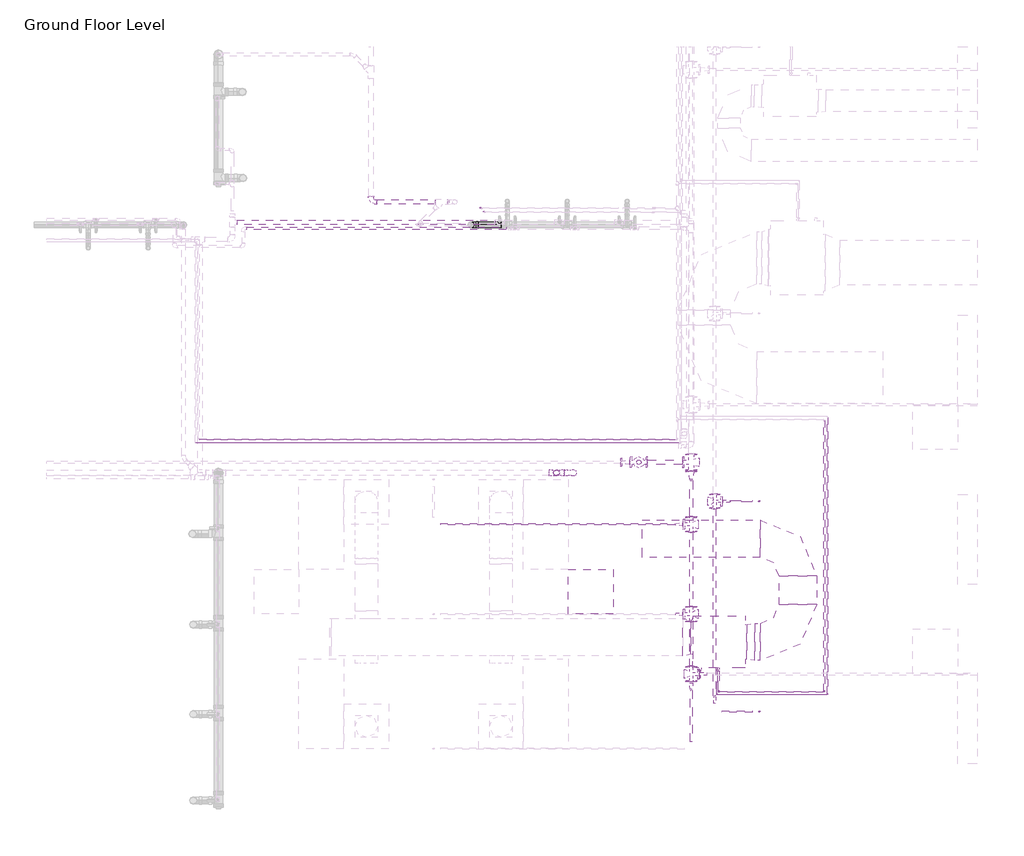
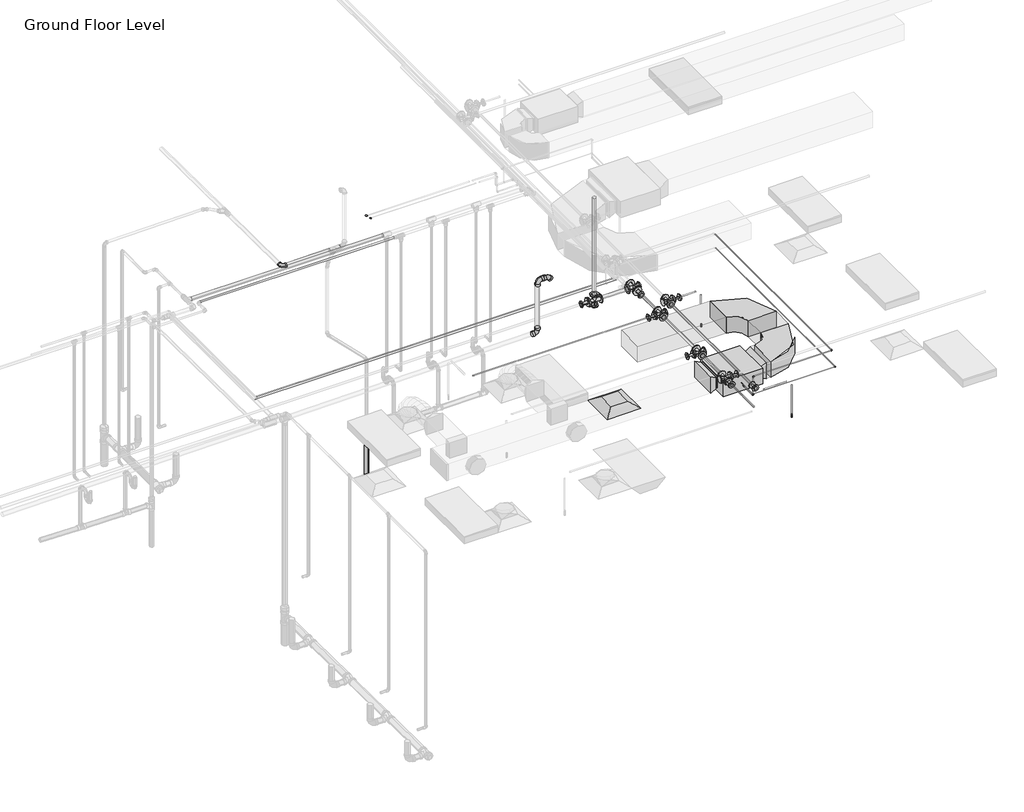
# One storey, part 15 of 74: 28 pipe segments, 26 pipe fittings, 4 duct fittings, 3 duct segments, 2 fire suppression terminals, 1 air terminal, 1 proxy.
"""IFC4 building model written with IfcOpenShell, lengths in millimetres."""

from ifc_helpers import new_model, si_unit, point, frame, frame_2d, origin, place, context, project, spatial, polyline, circle_curve, trimmed, segment, composite_curve, outline, extrude, transform, mapped, element, save
from components import m_return_diffuser_600_x_600_face_300_x_300_connection_ff221211, fcu_daikin_iu_bad131e0, m_rectangular_elbow_radius_1_w_abe20169, m_rectangular_transition_angle_45_degree_2b595dfe, m_rectangular_transition_angle_45_degree_f7c2916c, m_sprinkler_pendent_15_mm_pendent_06fcbd8e, m_bend_pvc_sch_40_dwv_standard_0eeb11e1, m_bend_pvc_sch_40_dwv_standard_ec028db0, m_bend_pvc_sch_40_dwv_standard_cec44c9e, m_bend_pvc_sch_40_dwv_standard_14735a05, m_elbow_generic_standard_a088f956, m_elbow_generic_standard_2a704253, m_elbow_generic_standard_bb5ffebe, m_elbow_generic_standard_f0c60a04, m_reducer_flanged_cs_class_150_standard_b6b67c23, m_reducer_flanged_cs_class_150_standard_ccf252ad, m_reducer_flanged_cs_class_150_standard_d42b2106, m_reducer_flanged_cs_class_150_standard_cc2a7c1d, m_reducer_flanged_cs_class_150_standard_a7631c35, m_reducer_flanged_cs_class_150_standard_678fb8eb, m_reducer_flanged_cs_class_150_standard_13db1923, m_tee_reducing_sanitary_pvc_sch_40_dwv_standard_b574f8c1, m_tee_round_base_flanged_cs_class_150_standard_dd767e04, m_tee_round_base_flanged_cs_class_150_standard_7e5987a1, m_tee_round_base_flanged_cs_class_150_standard_9c9133d0

model = new_model("IFC4")

# Units and contexts
model_context = context("Model", 3, world=origin())
ifc_project = project(units=[si_unit("LENGTHUNIT", "METRE", prefix="MILLI")], contexts=[model_context])

# Site, building, storey
site = spatial("IfcSite", under=ifc_project)
building = spatial("IfcBuilding", under=site)
storey = spatial("IfcBuildingStorey", under=building, Name="Ground Floor Level", Elevation=900.0)

# Air terminal
placement = place(None, origin())
m_return_diffuser_600_x_600_face_300_x_300_connection_shape = m_return_diffuser_600_x_600_face_300_x_300_connection_ff221211(model_context)
element("IfcAirTerminal", 1, ObjectType="M_Return Diffuser : 600 x 600 Face 300 x 300 Connection", at=placement, inside=storey, context=model_context, shape_type="MappedRepresentation", body=[
    mapped(m_return_diffuser_600_x_600_face_300_x_300_connection_shape, transform((4342.7672394, -37764.7846466, 3650.0), x_axis=(1.0, 0.0, 0.0), y_axis=(0.0, 1.0, 0.0), z_axis=(0.0, 0.0, 1.0))),
])

# Proxy
fcu_daikin_iu_shape = fcu_daikin_iu_bad131e0(model_context)
element("IfcBuildingElementProxy", 2, Name="FCU-DAIKIN IU : 4.5kW, 230V/50Hz/1Ph", ObjectType="FCU-DAIKIN IU : 4.5kW, 230V/50Hz/1Ph", at=placement, inside=storey, context=model_context, shape_type="MappedRepresentation", body=[
    mapped(fcu_daikin_iu_shape, transform((6052.7672394, -38436.1128682, 3934.0875), x_axis=(0.0, -1.0, 0.0), y_axis=(1.0, 0.0, 0.0), z_axis=(0.0, 0.0, 1.0))),
])

# Duct fittings
m_rectangular_elbow_radius_1_w_shape = m_rectangular_elbow_radius_1_w_abe20169(model_context)
element("IfcDuctFitting", 3, ObjectType="M_Rectangular Elbow - Radius : 1 W", at=placement, inside=storey, context=model_context, shape_type="MappedRepresentation", body=[
    mapped(m_rectangular_elbow_radius_1_w_shape, transform((7108.1672394, -38436.1128682, 4075.2875), x_axis=(1.0, 0.0, 0.0), y_axis=(0.0, 1.0, 0.0), z_axis=(0.0, 0.0, 1.0))),
])
element("IfcDuctFitting", 4, ObjectType="M_Rectangular Elbow - Radius : 1 W", at=placement, inside=storey, context=model_context, shape_type="MappedRepresentation", body=[
    mapped(m_rectangular_elbow_radius_1_w_shape, transform((7108.1672394, -37056.1128682, 4075.2875), x_axis=(0.0, 1.0, 0.0), y_axis=(-1.0, 0.0, 0.0), z_axis=(0.0, 0.0, 1.0))),
])
m_rectangular_transition_angle_45_degree_shape = m_rectangular_transition_angle_45_degree_2b595dfe(model_context)
element("IfcDuctFitting", 5, ObjectType="M_Rectangular Transition - Angle : 45 Degree", at=placement, inside=storey, context=model_context, shape_type="MappedRepresentation", body=[
    mapped(m_rectangular_transition_angle_45_degree_shape, transform((5677.3672394, -38372.6128682, 4100.0), x_axis=(-1.0, 0.0, 0.0), y_axis=(0.0, -1.0, 0.0), z_axis=(0.0, 0.0, 1.0))),
])
m_rectangular_transition_angle_45_degree_2_shape = m_rectangular_transition_angle_45_degree_f7c2916c(model_context)
element("IfcDuctFitting", 6, ObjectType="M_Rectangular Transition - Angle : 45 Degree", at=placement, inside=storey, context=model_context, shape_type="MappedRepresentation", body=[
    mapped(m_rectangular_transition_angle_45_degree_2_shape, transform((6428.1672394, -38436.1128682, 4075.2875), x_axis=(1.0, 0.0, 0.0), y_axis=(0.0, 1.0, 0.0), z_axis=(0.0, 0.0, 1.0))),
])

# Duct segments
element("IfcDuctSegment", 7, ObjectType="Radius Elbows / Taps", at=placement, inside=storey, context=model_context, shape_type="SweptSolid", body=[
    extrude(outline(polyline([(6531.6162906, -38686.1128682), (6531.6162906, -38186.1128682), (6608.1672394, -38186.1128682), (6608.1672394, -38686.1128682), (6531.6162906, -38686.1128682)])), frame((0.0, 0.0, 3925.2875), z_axis=(0.0, 0.0, 1.0), x_axis=(1.0, 0.0, 0.0)), (0.0, 0.0, 1.0), 300.0),
])
element("IfcDuctSegment", 8, ObjectType="Radius Elbows / Taps", at=placement, inside=storey, context=model_context, shape_type="SweptSolid", body=[
    extrude(outline(polyline([(7358.1672394, -37936.1128682), (6858.1672394, -37936.1128682), (6858.1672394, -37556.1128682), (7358.1672394, -37556.1128682), (7358.1672394, -37936.1128682)])), frame((0.0, 0.0, 3925.2875), z_axis=(0.0, 0.0, 1.0), x_axis=(1.0, 0.0, 0.0)), (0.0, 0.0, 1.0), 300.0),
])
element("IfcDuctSegment", 9, ObjectType="Radius Elbows / Taps", at=placement, inside=storey, context=model_context, shape_type="SweptSolid", body=[
    extrude(outline(polyline([(6608.1672394, -36806.1128682), (6608.1672394, -37306.1128682), (5028.1672394, -37306.1128682), (5028.1672394, -36806.1128682), (6608.1672394, -36806.1128682)])), frame((0.0, 0.0, 3925.2875), z_axis=(0.0, 0.0, 1.0), x_axis=(1.0, 0.0, 0.0)), (0.0, 0.0, 1.0), 300.0),
])

# Fire suppression terminals
m_sprinkler_pendent_15_mm_pendent_shape = m_sprinkler_pendent_15_mm_pendent_06fcbd8e(model_context)
element("IfcFireSuppressionTerminal", 10, ObjectType="M_Sprinkler - Pendent : 15 mm Pendent", at=placement, inside=storey, context=model_context, shape_type="MappedRepresentation", body=[
    mapped(m_sprinkler_pendent_15_mm_pendent_shape, transform((6592.5481019, -36555.4049984, 3650.0), x_axis=(1.0, 0.0, 0.0), y_axis=(0.0, 1.0, 0.0), z_axis=(0.0, 0.0, 1.0))),
])
element("IfcFireSuppressionTerminal", 11, ObjectType="M_Sprinkler - Pendent : 15 mm Pendent", at=placement, inside=storey, context=model_context, shape_type="MappedRepresentation", body=[
    mapped(m_sprinkler_pendent_15_mm_pendent_shape, transform((6592.5481019, -39366.4607861, 3650.0), x_axis=(1.0, 0.0, 0.0), y_axis=(0.0, 1.0, 0.0), z_axis=(0.0, 0.0, 1.0))),
])

# Pipe fittings
m_bend_pvc_sch_40_dwv_standard_shape = m_bend_pvc_sch_40_dwv_standard_0eeb11e1(model_context)
element("IfcPipeFitting", 12, ObjectType="M_Bend - PVC - Sch 40 - DWV : Standard", at=placement, inside=storey, context=model_context, shape_type="MappedRepresentation", body=[
    mapped(m_bend_pvc_sch_40_dwv_standard_shape, transform((3884.407481, -36176.1401483, 4209.2900099), x_axis=(0.9999500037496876, 0.0, 0.009999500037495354), y_axis=(-0.009999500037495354, 0.0, 0.9999500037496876), z_axis=(0.0, -1.0, 0.0))),
])
m_bend_pvc_sch_40_dwv_standard_2_shape = m_bend_pvc_sch_40_dwv_standard_ec028db0(model_context)
element("IfcPipeFitting", 13, ObjectType="M_Bend - PVC - Sch 40 - DWV : Standard", at=placement, inside=storey, context=model_context, shape_type="MappedRepresentation", body=[
    mapped(m_bend_pvc_sch_40_dwv_standard_2_shape, transform((1404.8829692, -32554.2948449, 4125.20016), x_axis=(0.0, -0.9999500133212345, 0.009998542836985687), y_axis=(0.9999500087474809, 9.997543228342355e-05, 0.00999850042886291), z_axis=(-0.009999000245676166, 0.0099980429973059, 0.9999000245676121))),
])
m_bend_pvc_sch_40_dwv_standard_3_shape = m_bend_pvc_sch_40_dwv_standard_cec44c9e(model_context)
element("IfcPipeFitting", 14, ObjectType="M_Bend - PVC - Sch 40 - DWV : Standard", at=placement, inside=storey, context=model_context, shape_type="MappedRepresentation", body=[
    mapped(m_bend_pvc_sch_40_dwv_standard_3_shape, transform((3884.3964821, -36176.1401483, 5200.5901311), x_axis=(0.0, 0.0, 1.0), y_axis=(1.0, 0.0, 0.0), z_axis=(0.0, 1.0, 0.0))),
])
m_bend_pvc_sch_40_dwv_standard_4_shape = m_bend_pvc_sch_40_dwv_standard_14735a05(model_context)
element("IfcPipeFitting", 15, ObjectType="M_Bend - PVC - Sch 40 - DWV : Standard", at=placement, inside=storey, context=model_context, shape_type="MappedRepresentation", body=[
    mapped(m_bend_pvc_sch_40_dwv_standard_4_shape, transform((4066.142039, -36176.1401483, 5198.6726756), x_axis=(0.9999500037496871, 0.0, -0.009999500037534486), y_axis=(-0.009999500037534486, 0.0, -0.9999500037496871), z_axis=(0.0, 1.0, 0.0))),
])
m_elbow_generic_standard_shape = m_elbow_generic_standard_a088f956(model_context)
element("IfcPipeFitting", 16, ObjectType="M_Elbow - Generic : Standard", at=placement, inside=storey, context=model_context, shape_type="MappedRepresentation", body=[
    mapped(m_elbow_generic_standard_shape, transform((6052.7672394, -39103.1206952, 4034.0875), x_axis=(0.0, -1.0, 0.0), y_axis=(0.0, 0.0, 1.0), z_axis=(-1.0, 0.0, 0.0))),
])
element("IfcPipeFitting", 17, ObjectType="M_Elbow - Generic : Standard", at=placement, inside=storey, context=model_context, shape_type="MappedRepresentation", body=[
    mapped(m_elbow_generic_standard_shape, transform((6052.7672394, -39103.1206952, 4390.0), x_axis=(0.0, 0.0, 1.0), y_axis=(1.0, 0.0, 0.0), z_axis=(0.0, 1.0, 0.0))),
])
element("IfcPipeFitting", 18, ObjectType="M_Elbow - Generic : Standard", at=placement, inside=storey, context=model_context, shape_type="MappedRepresentation", body=[
    mapped(m_elbow_generic_standard_shape, transform((7462.8951827, -39103.1206952, 4390.0), x_axis=(1.0, 0.0, 0.0), y_axis=(0.0, 1.0, 0.0), z_axis=(0.0, 0.0, 1.0))),
])
m_elbow_generic_standard_2_shape = m_elbow_generic_standard_2a704253(model_context)
element("IfcPipeFitting", 19, ObjectType="M_Elbow - Generic : Standard", at=placement, inside=storey, context=model_context, shape_type="MappedRepresentation", body=[
    mapped(m_elbow_generic_standard_2_shape, transform((7503.9904113, -39140.6009836, 4084.9), x_axis=(1.0, 0.0, 0.0), y_axis=(0.0, 1.0, 0.0), z_axis=(0.0, 0.0, 1.0))),
])
element("IfcPipeFitting", 20, ObjectType="M_Elbow - Generic : Standard", at=placement, inside=storey, context=model_context, shape_type="MappedRepresentation", body=[
    mapped(m_elbow_generic_standard_2_shape, transform((6027.7672393, -39140.6009836, 4084.9), x_axis=(0.0, -0.9999999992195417, 3.9508437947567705e-05), y_axis=(1.0000000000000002, 0.0, 0.0), z_axis=(0.0, 3.9508437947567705e-05, 0.9999999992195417))),
])
m_elbow_generic_standard_3_shape = m_elbow_generic_standard_bb5ffebe(model_context)
element("IfcPipeFitting", 21, ObjectType="M_Elbow - Generic : Standard", at=placement, inside=storey, context=model_context, shape_type="MappedRepresentation", body=[
    mapped(m_elbow_generic_standard_3_shape, transform((2867.2893107, -32638.716218, 4621.4908765), x_axis=(0.0, -1.0, 0.0), y_axis=(1.0, 0.0, 0.0), z_axis=(0.0, 0.0, 1.0))),
])
m_elbow_generic_standard_4_shape = m_elbow_generic_standard_f0c60a04(model_context)
element("IfcPipeFitting", 22, ObjectType="M_Elbow - Generic : Standard", at=placement, inside=storey, context=model_context, shape_type="MappedRepresentation", body=[
    mapped(m_elbow_generic_standard_4_shape, transform((2911.3621079, -32691.5527522, 4591.0863665), x_axis=(0.0, -1.0, 0.0), y_axis=(1.0, 0.0, 0.0), z_axis=(0.0, 0.0, 1.0))),
])
m_reducer_flanged_cs_class_150_standard_shape = m_reducer_flanged_cs_class_150_standard_b6b67c23(model_context)
element("IfcPipeFitting", 23, ObjectType="M_Reducer - Flanged - CS - Class 150 : Standard", at=placement, inside=storey, context=model_context, shape_type="MappedRepresentation", body=[
    mapped(m_reducer_flanged_cs_class_150_standard_shape, transform((5790.7160832, -38864.7846466, 4347.5), x_axis=(1.0, 0.0, 0.0), y_axis=(0.0, 0.0, 1.0), z_axis=(0.0, -1.0, 0.0))),
])
m_reducer_flanged_cs_class_150_standard_2_shape = m_reducer_flanged_cs_class_150_standard_ccf252ad(model_context)
element("IfcPipeFitting", 24, ObjectType="M_Reducer - Flanged - CS - Class 150 : Standard", at=placement, inside=storey, context=model_context, shape_type="MappedRepresentation", body=[
    mapped(m_reducer_flanged_cs_class_150_standard_2_shape, transform((5997.057812, -39159.4521923, 4291.0943441), x_axis=(0.0, -1.0, 0.0), y_axis=(1.0, 0.0, 0.0), z_axis=(0.0, 0.0, 1.0))),
])
m_reducer_flanged_cs_class_150_standard_3_shape = m_reducer_flanged_cs_class_150_standard_d42b2106(model_context)
element("IfcPipeFitting", 25, ObjectType="M_Reducer - Flanged - CS - Class 150 : Standard", at=placement, inside=storey, context=model_context, shape_type="MappedRepresentation", body=[
    mapped(m_reducer_flanged_cs_class_150_standard_3_shape, transform((6097.7664057, -36555.4049984, 4291.2754753), x_axis=(1.0, 0.0, 0.0), y_axis=(0.0, 0.0, -1.0), z_axis=(0.0, 1.0, 0.0))),
])
m_reducer_flanged_cs_class_150_standard_4_shape = m_reducer_flanged_cs_class_150_standard_cc2a7c1d(model_context)
element("IfcPipeFitting", 26, ObjectType="M_Reducer - Flanged - CS - Class 150 : Standard", at=placement, inside=storey, context=model_context, shape_type="MappedRepresentation", body=[
    mapped(m_reducer_flanged_cs_class_150_standard_4_shape, transform((5578.5188957, -38064.7846466, 4347.5), x_axis=(-1.0, 0.0, 0.0), y_axis=(0.0, 0.0, -1.0), z_axis=(0.0, -1.0, 0.0))),
])
m_reducer_flanged_cs_class_150_standard_5_shape = m_reducer_flanged_cs_class_150_standard_a7631c35(model_context)
element("IfcPipeFitting", 27, ObjectType="M_Reducer - Flanged - CS - Class 150 : Standard", at=placement, inside=storey, context=model_context, shape_type="MappedRepresentation", body=[
    mapped(m_reducer_flanged_cs_class_150_standard_5_shape, transform((4870.6174894, -36033.7985971, 4347.5), x_axis=(-1.0, 0.0, 0.0), y_axis=(0.0, -1.0, 0.0), z_axis=(0.0, 0.0, 1.0))),
])
m_reducer_flanged_cs_class_150_standard_6_shape = m_reducer_flanged_cs_class_150_standard_678fb8eb(model_context)
element("IfcPipeFitting", 28, ObjectType="M_Reducer - Flanged - CS - Class 150 : Standard", at=placement, inside=storey, context=model_context, shape_type="MappedRepresentation", body=[
    mapped(m_reducer_flanged_cs_class_150_standard_6_shape, transform((5578.5188957, -36864.7846466, 4347.5), x_axis=(-1.0, 0.0, 0.0), y_axis=(0.0, -1.0, 0.0), z_axis=(0.0, 0.0, 1.0))),
])
element("IfcPipeFitting", 29, ObjectType="M_Reducer - Flanged - CS - Class 150 : Standard", at=placement, inside=storey, context=model_context, shape_type="MappedRepresentation", body=[
    mapped(m_reducer_flanged_cs_class_150_standard_6_shape, transform((5684.6174894, -38970.8832404, 4347.5), x_axis=(0.0, -1.0, 0.0), y_axis=(1.0, 0.0, 0.0), z_axis=(0.0, 0.0, 1.0))),
])
m_reducer_flanged_cs_class_150_standard_7_shape = m_reducer_flanged_cs_class_150_standard_13db1923(model_context)
element("IfcPipeFitting", 30, ObjectType="M_Reducer - Flanged - CS - Class 150 : Standard", at=placement, inside=storey, context=model_context, shape_type="MappedRepresentation", body=[
    mapped(m_reducer_flanged_cs_class_150_standard_7_shape, transform((5684.6174894, -36147.7985971, 4347.5), x_axis=(0.0, -1.0, 0.0), y_axis=(1.0, 0.0, 0.0), z_axis=(0.0, 0.0, 1.0))),
])
m_tee_reducing_sanitary_pvc_sch_40_dwv_standard_shape = m_tee_reducing_sanitary_pvc_sch_40_dwv_standard_b574f8c1(model_context)
element("IfcPipeFitting", 31, ObjectType="M_Tee Reducing Sanitary - PVC - Sch 40 - DWV : Standard", at=placement, inside=storey, context=model_context, shape_type="MappedRepresentation", body=[
    mapped(m_tee_reducing_sanitary_pvc_sch_40_dwv_standard_shape, transform((2740.8154211, -32858.7119065, 701.6), x_axis=(0.0, 0.0, 1.0), y_axis=(-1.0, 0.0, 0.0), z_axis=(0.0, -1.0, 0.0))),
])
m_tee_round_base_flanged_cs_class_150_standard_shape = m_tee_round_base_flanged_cs_class_150_standard_dd767e04(model_context)
element("IfcPipeFitting", 32, ObjectType="M_Tee Round Base - Flanged - CS - Class 150 : Standard", at=placement, inside=storey, context=model_context, shape_type="MappedRepresentation", body=[
    mapped(m_tee_round_base_flanged_cs_class_150_standard_shape, transform((5684.6174894, -36033.7985971, 4347.5), x_axis=(0.0, 1.0, 0.0), y_axis=(1.0, 0.0, 0.0), z_axis=(0.0, 0.0, -1.0))),
])
element("IfcPipeFitting", 33, ObjectType="M_Tee Round Base - Flanged - CS - Class 150 : Standard", at=placement, inside=storey, context=model_context, shape_type="MappedRepresentation", body=[
    mapped(m_tee_round_base_flanged_cs_class_150_standard_shape, transform((4984.6174894, -36033.7985971, 4347.5), x_axis=(-1.0, 0.0, 0.0), y_axis=(0.0, 0.0, -1.0), z_axis=(0.0, -1.0, 0.0))),
])
m_tee_round_base_flanged_cs_class_150_standard_2_shape = m_tee_round_base_flanged_cs_class_150_standard_7e5987a1(model_context)
element("IfcPipeFitting", 34, ObjectType="M_Tee Round Base - Flanged - CS - Class 150 : Standard", at=placement, inside=storey, context=model_context, shape_type="MappedRepresentation", body=[
    mapped(m_tee_round_base_flanged_cs_class_150_standard_2_shape, transform((5997.057812, -36555.4049984, 4291.0943441), x_axis=(0.0, 1.0, 0.0), y_axis=(-1.0, 0.0, 0.0), z_axis=(0.0, 0.0, 1.0))),
])
m_tee_round_base_flanged_cs_class_150_standard_3_shape = m_tee_round_base_flanged_cs_class_150_standard_9c9133d0(model_context)
element("IfcPipeFitting", 35, ObjectType="M_Tee Round Base - Flanged - CS - Class 150 : Standard", at=placement, inside=storey, context=model_context, shape_type="MappedRepresentation", body=[
    mapped(m_tee_round_base_flanged_cs_class_150_standard_3_shape, transform((5684.6174894, -38064.7846466, 4347.5), x_axis=(0.0, 1.0, 0.0), y_axis=(1.0, 0.0, 0.0), z_axis=(0.0, 0.0, -1.0))),
])
element("IfcPipeFitting", 36, ObjectType="M_Tee Round Base - Flanged - CS - Class 150 : Standard", at=placement, inside=storey, context=model_context, shape_type="MappedRepresentation", body=[
    mapped(m_tee_round_base_flanged_cs_class_150_standard_3_shape, transform((5684.6174894, -38864.7846466, 4347.5), x_axis=(0.0, 1.0, 0.0), y_axis=(-1.0, 0.0, 0.0), z_axis=(0.0, 0.0, 1.0))),
])
element("IfcPipeFitting", 37, ObjectType="M_Tee Round Base - Flanged - CS - Class 150 : Standard", at=placement, inside=storey, context=model_context, shape_type="MappedRepresentation", body=[
    mapped(m_tee_round_base_flanged_cs_class_150_standard_3_shape, transform((5684.6174894, -36864.7846466, 4347.5), x_axis=(0.0, 1.0, 0.0), y_axis=(1.0, 0.0, 0.0), z_axis=(0.0, 0.0, -1.0))),
])

# Pipe segments
element("IfcPipeSegment", 38, ObjectType="CPVC", at=placement, inside=storey, context=model_context, shape_type="SweptSolid", body=[
    extrude(outline(composite_curve([segment(trimmed(circle_curve(frame_2d((-32824.9853451, 4300.0)), 30.1625), [point((-32855.1478451, 4300.0))], [point((-32824.9853451, 4330.1625))], False, "CARTESIAN"), True, "CONTINUOUS"), segment(trimmed(circle_curve(frame_2d((-32824.9853451, 4300.0)), 30.1625), [point((-32824.9853451, 4330.1625))], [point((-32794.8228451, 4300.0))], False, "CARTESIAN"), True, "CONTINUOUS"), segment(trimmed(circle_curve(frame_2d((-32824.9853451, 4300.0)), 30.1625), [point((-32794.8228451, 4300.0))], [point((-32824.9853451, 4269.8375))], False, "CARTESIAN"), True, "CONTINUOUS"), segment(trimmed(circle_curve(frame_2d((-32824.9853451, 4300.0)), 30.1625), [point((-32824.9853451, 4269.8375))], [point((-32855.1478451, 4300.0))], False, "CARTESIAN"), True, "CONTINUOUS")], self_intersect=False)), frame((-380.5577605, 0.0, 0.0), z_axis=(1.0, 0.0, 0.0), x_axis=(0.0, 1.0, 0.0)), (0.0, 0.0, 1.0), 3436.3525188),
])
element("IfcPipeSegment", 39, ObjectType="CPVC", at=placement, inside=storey, context=model_context, shape_type="SweptSolid", body=[
    extrude(outline(composite_curve([segment(trimmed(circle_curve(frame_2d((-32905.870708, 4250.0)), 16.7005), [point((-32889.170208, 4250.0))], [point((-32905.870708, 4233.2995))], False, "CARTESIAN"), True, "CONTINUOUS"), segment(trimmed(circle_curve(frame_2d((-32905.870708, 4250.0)), 16.7005), [point((-32905.870708, 4233.2995))], [point((-32922.571208, 4250.0))], False, "CARTESIAN"), True, "CONTINUOUS"), segment(trimmed(circle_curve(frame_2d((-32905.870708, 4250.0)), 16.7005), [point((-32922.571208, 4250.0))], [point((-32905.870708, 4266.7005))], False, "CARTESIAN"), True, "CONTINUOUS"), segment(trimmed(circle_curve(frame_2d((-32905.870708, 4250.0)), 16.7005), [point((-32905.870708, 4266.7005))], [point((-32889.170208, 4250.0))], False, "CARTESIAN"), True, "CONTINUOUS")], self_intersect=False)), frame((-256.1798698, 0.0, 0.0), z_axis=(1.0, 0.0, 0.0), x_axis=(0.0, 1.0, 0.0)), (0.0, 0.0, 1.0), 3467.1855943),
])
element("IfcPipeSegment", 40, ObjectType="Copper", at=placement, inside=storey, context=model_context, shape_type="SweptSolid", body=[
    extrude(outline(composite_curve([segment(trimmed(circle_curve(frame_2d((-35730.466218, 4390.0)), 6.5), [point((-35723.966218, 4390.0))], [point((-35730.466218, 4383.5))], False, "CARTESIAN"), True, "CONTINUOUS"), segment(trimmed(circle_curve(frame_2d((-35730.466218, 4390.0)), 6.5), [point((-35730.466218, 4383.5))], [point((-35736.966218, 4390.0))], False, "CARTESIAN"), True, "CONTINUOUS"), segment(trimmed(circle_curve(frame_2d((-35730.466218, 4390.0)), 6.5), [point((-35736.966218, 4390.0))], [point((-35730.466218, 4396.5))], False, "CARTESIAN"), True, "CONTINUOUS"), segment(trimmed(circle_curve(frame_2d((-35730.466218, 4390.0)), 6.5), [point((-35730.466218, 4396.5))], [point((-35723.966218, 4390.0))], False, "CARTESIAN"), True, "CONTINUOUS")], self_intersect=False)), frame((-882.8173173, 0.0, 0.0), z_axis=(1.0, 0.0, 0.0), x_axis=(0.0, 1.0, 0.0)), (0.0, 0.0, 1.0), 6366.425),
])
element("IfcPipeSegment", 41, ObjectType="Copper", at=placement, inside=storey, context=model_context, shape_type="SweptSolid", body=[
    extrude(outline(composite_curve([segment(trimmed(circle_curve(frame_2d((-35773.5402522, 4377.5)), 3.35), [point((-35770.1902522, 4377.5))], [point((-35773.5402522, 4374.15))], False, "CARTESIAN"), True, "CONTINUOUS"), segment(trimmed(circle_curve(frame_2d((-35773.5402522, 4377.5)), 3.35), [point((-35773.5402522, 4374.15))], [point((-35776.8902522, 4377.5))], False, "CARTESIAN"), True, "CONTINUOUS"), segment(trimmed(circle_curve(frame_2d((-35773.5402522, 4377.5)), 3.35), [point((-35776.8902522, 4377.5))], [point((-35773.5402522, 4380.85))], False, "CARTESIAN"), True, "CONTINUOUS"), segment(trimmed(circle_curve(frame_2d((-35773.5402522, 4377.5)), 3.35), [point((-35773.5402522, 4380.85))], [point((-35770.1902522, 4377.5))], False, "CARTESIAN"), True, "CONTINUOUS")], self_intersect=False)), frame((-929.8720887, 0.0, 0.0), z_axis=(1.0, 0.0, 0.0), x_axis=(0.0, 1.0, 0.0)), (0.0, 0.0, 1.0), 6462.725),
])
element("IfcPipeSegment", 42, ObjectType="Copper", at=placement, inside=storey, context=model_context, shape_type="SweptSolid", body=[
    extrude(outline(composite_curve([segment(trimmed(circle_curve(frame_2d((4390.0, 7462.8951827)), 6.5), [point((4390.0, 7456.3951827))], [point((4383.5, 7462.8951827))], False, "CARTESIAN"), True, "CONTINUOUS"), segment(trimmed(circle_curve(frame_2d((4390.0, 7462.8951827)), 6.5), [point((4383.5, 7462.8951827))], [point((4390.0, 7469.3951827))], False, "CARTESIAN"), True, "CONTINUOUS"), segment(trimmed(circle_curve(frame_2d((4390.0, 7462.8951827)), 6.5), [point((4390.0, 7469.3951827))], [point((4396.5, 7462.8951827))], False, "CARTESIAN"), True, "CONTINUOUS"), segment(trimmed(circle_curve(frame_2d((4390.0, 7462.8951827)), 6.5), [point((4396.5, 7462.8951827))], [point((4390.0, 7456.3951827))], False, "CARTESIAN"), True, "CONTINUOUS")], self_intersect=False)), frame((0.0, -39088.8331952, 0.0), z_axis=(0.0, 1.0, 0.0), x_axis=(0.0, 0.0, 1.0)), (0.0, 0.0, 1.0), 3611.425),
])
element("IfcPipeSegment", 43, ObjectType="Copper", at=placement, inside=storey, context=model_context, shape_type="SweptSolid", body=[
    extrude(outline(composite_curve([segment(trimmed(circle_curve(frame_2d((-39103.1206952, 4390.0)), 6.5), [point((-39109.6206952, 4390.0))], [point((-39103.1206952, 4396.5))], False, "CARTESIAN"), True, "CONTINUOUS"), segment(trimmed(circle_curve(frame_2d((-39103.1206952, 4390.0)), 6.5), [point((-39103.1206952, 4396.5))], [point((-39096.6206952, 4390.0))], False, "CARTESIAN"), True, "CONTINUOUS"), segment(trimmed(circle_curve(frame_2d((-39103.1206952, 4390.0)), 6.5), [point((-39096.6206952, 4390.0))], [point((-39103.1206952, 4383.5))], False, "CARTESIAN"), True, "CONTINUOUS"), segment(trimmed(circle_curve(frame_2d((-39103.1206952, 4390.0)), 6.5), [point((-39103.1206952, 4383.5))], [point((-39109.6206952, 4390.0))], False, "CARTESIAN"), True, "CONTINUOUS")], self_intersect=False)), frame((6067.0547394, 0.0, 0.0), z_axis=(1.0, 0.0, 0.0), x_axis=(0.0, 1.0, 0.0)), (0.0, 0.0, 1.0), 1381.5529433),
])
element("IfcPipeSegment", 44, ObjectType="Copper", at=placement, inside=storey, context=model_context, shape_type="SweptSolid", body=[
    extrude(outline(composite_curve([segment(trimmed(circle_curve(frame_2d((4084.9, 7503.9904113)), 3.35), [point((4084.9, 7500.6404113))], [point((4081.55, 7503.9904113))], False, "CARTESIAN"), True, "CONTINUOUS"), segment(trimmed(circle_curve(frame_2d((4084.9, 7503.9904113)), 3.35), [point((4081.55, 7503.9904113))], [point((4084.9, 7507.3404113))], False, "CARTESIAN"), True, "CONTINUOUS"), segment(trimmed(circle_curve(frame_2d((4084.9, 7503.9904113)), 3.35), [point((4084.9, 7507.3404113))], [point((4088.25, 7503.9904113))], False, "CARTESIAN"), True, "CONTINUOUS"), segment(trimmed(circle_curve(frame_2d((4084.9, 7503.9904113)), 3.35), [point((4088.25, 7503.9904113))], [point((4084.9, 7500.6404113))], False, "CARTESIAN"), True, "CONTINUOUS")], self_intersect=False)), frame((0.0, -39129.4634836, 0.0), z_axis=(0.0, 1.0, 0.0), x_axis=(0.0, 0.0, 1.0)), (0.0, 0.0, 1.0), 3697.725),
])
element("IfcPipeSegment", 45, ObjectType="Copper", at=placement, inside=storey, context=model_context, shape_type="SweptSolid", body=[
    extrude(outline(composite_curve([segment(trimmed(circle_curve(frame_2d((-39140.6009836, 4084.9)), 3.35), [point((-39137.2509836, 4084.9))], [point((-39140.6009836, 4081.55))], False, "CARTESIAN"), True, "CONTINUOUS"), segment(trimmed(circle_curve(frame_2d((-39140.6009836, 4084.9)), 3.35), [point((-39140.6009836, 4081.55))], [point((-39143.9509836, 4084.9))], False, "CARTESIAN"), True, "CONTINUOUS"), segment(trimmed(circle_curve(frame_2d((-39140.6009836, 4084.9)), 3.35), [point((-39143.9509836, 4084.9))], [point((-39140.6009836, 4088.25))], False, "CARTESIAN"), True, "CONTINUOUS"), segment(trimmed(circle_curve(frame_2d((-39140.6009836, 4084.9)), 3.35), [point((-39140.6009836, 4088.25))], [point((-39137.2509836, 4084.9))], False, "CARTESIAN"), True, "CONTINUOUS")], self_intersect=False)), frame((6038.9047393, 0.0, 0.0), z_axis=(1.0, 0.0, 0.0), x_axis=(0.0, 1.0, 0.0)), (0.0, 0.0, 1.0), 1453.948172),
])
element("IfcPipeSegment", 46, ObjectType="Copper", at=placement, inside=storey, context=model_context, shape_type="SweptSolid", body=[
    extrude(outline(composite_curve([segment(trimmed(circle_curve(frame_2d((0.0, -3.35)), 3.35), [point((0.0, -6.7))], [point((-3.35, -3.35))], False, "CARTESIAN"), True, "CONTINUOUS"), segment(trimmed(circle_curve(frame_2d((0.0, -3.35)), 3.35), [point((-3.35, -3.35))], [point((0.0, 0.0))], False, "CARTESIAN"), True, "CONTINUOUS"), segment(trimmed(circle_curve(frame_2d((0.0, -3.35)), 3.35), [point((0.0, 0.0))], [point((3.35, -3.35))], False, "CARTESIAN"), True, "CONTINUOUS"), segment(trimmed(circle_curve(frame_2d((0.0, -3.35)), 3.35), [point((3.35, -3.35))], [point((0.0, -6.7))], False, "CARTESIAN"), True, "CONTINUOUS")], self_intersect=False)), frame((6024.4172393, -38824.2128682, 4084.8875), z_axis=(0.0, -0.9999999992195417, 3.950843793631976e-05), x_axis=(0.0, 3.950843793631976e-05, 0.9999999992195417)), (0.0, 0.0, 1.0), 305.2506156),
])
element("IfcPipeSegment", 47, ObjectType="Copper", at=placement, inside=storey, context=model_context, shape_type="SweptSolid", body=[
    extrude(outline(composite_curve([segment(trimmed(circle_curve(frame_2d((4034.0875, 6052.7672394)), 6.5), [point((4034.0875, 6046.2672394))], [point((4027.5875, 6052.7672394))], False, "CARTESIAN"), True, "CONTINUOUS"), segment(trimmed(circle_curve(frame_2d((4034.0875, 6052.7672394)), 6.5), [point((4027.5875, 6052.7672394))], [point((4034.0875, 6059.2672394))], False, "CARTESIAN"), True, "CONTINUOUS"), segment(trimmed(circle_curve(frame_2d((4034.0875, 6052.7672394)), 6.5), [point((4034.0875, 6059.2672394))], [point((4040.5875, 6052.7672394))], False, "CARTESIAN"), True, "CONTINUOUS"), segment(trimmed(circle_curve(frame_2d((4034.0875, 6052.7672394)), 6.5), [point((4040.5875, 6052.7672394))], [point((4034.0875, 6046.2672394))], False, "CARTESIAN"), True, "CONTINUOUS")], self_intersect=False)), frame((0.0, -39088.8331952, 0.0), z_axis=(0.0, 1.0, 0.0), x_axis=(0.0, 0.0, 1.0)), (0.0, 0.0, 1.0), 264.6203269),
])
element("IfcPipeSegment", 48, ObjectType="Copper", at=placement, inside=storey, context=model_context, shape_type="SweptSolid", body=[
    extrude(outline(composite_curve([segment(trimmed(circle_curve(frame_2d((6052.7672394, -39103.1206952)), 6.5), [point((6046.2672394, -39103.1206952))], [point((6052.7672394, -39096.6206952))], False, "CARTESIAN"), True, "CONTINUOUS"), segment(trimmed(circle_curve(frame_2d((6052.7672394, -39103.1206952)), 6.5), [point((6052.7672394, -39096.6206952))], [point((6059.2672394, -39103.1206952))], False, "CARTESIAN"), True, "CONTINUOUS"), segment(trimmed(circle_curve(frame_2d((6052.7672394, -39103.1206952)), 6.5), [point((6059.2672394, -39103.1206952))], [point((6052.7672394, -39109.6206952))], False, "CARTESIAN"), True, "CONTINUOUS"), segment(trimmed(circle_curve(frame_2d((6052.7672394, -39103.1206952)), 6.5), [point((6052.7672394, -39109.6206952))], [point((6046.2672394, -39103.1206952))], False, "CARTESIAN"), True, "CONTINUOUS")], self_intersect=False)), frame((0.0, 0.0, 4048.375), z_axis=(0.0, 0.0, 1.0), x_axis=(1.0, 0.0, 0.0)), (0.0, 0.0, 1.0), 327.3375),
])
element("IfcPipeSegment", 49, ObjectType="PVC - DWV", at=placement, inside=storey, context=model_context, shape_type="SweptSolid", body=[
    extrude(outline(composite_curve([segment(trimmed(circle_curve(frame_2d((0.0, -36.5125)), 36.5125), [point((0.0, 0.0))], [point((36.5125, -36.5125))], False, "CARTESIAN"), True, "CONTINUOUS"), segment(trimmed(circle_curve(frame_2d((0.0, -36.5125)), 36.5125), [point((36.5125, -36.5125))], [point((0.0, -73.025))], False, "CARTESIAN"), True, "CONTINUOUS"), segment(trimmed(circle_curve(frame_2d((0.0, -36.5125)), 36.5125), [point((0.0, -73.025))], [point((-36.5125, -36.5125))], False, "CARTESIAN"), True, "CONTINUOUS"), segment(trimmed(circle_curve(frame_2d((0.0, -36.5125)), 36.5125), [point((-36.5125, -36.5125))], [point((0.0, 0.0))], False, "CARTESIAN"), True, "CONTINUOUS")], self_intersect=False)), frame((2840.7783918, -32822.1994065, 702.5996297), z_axis=(0.9999500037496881, 0.0, 0.0099995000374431), x_axis=(0.0099995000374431, 0.0, -0.9999500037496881)), (0.0, 0.0, 1.0), 306.9624682),
])
element("IfcPipeSegment", 50, ObjectType="PVC - DWV", at=placement, inside=storey, context=model_context, shape_type="SweptSolid", body=[
    extrude(outline(composite_curve([segment(trimmed(circle_curve(frame_2d((2740.8154211, -32858.7119065)), 36.5125), [point((2777.3279211, -32858.7119065))], [point((2740.8154211, -32895.2244065))], False, "CARTESIAN"), True, "CONTINUOUS"), segment(trimmed(circle_curve(frame_2d((2740.8154211, -32858.7119065)), 36.5125), [point((2740.8154211, -32895.2244065))], [point((2704.3029211, -32858.7119065))], False, "CARTESIAN"), True, "CONTINUOUS"), segment(trimmed(circle_curve(frame_2d((2740.8154211, -32858.7119065)), 36.5125), [point((2704.3029211, -32858.7119065))], [point((2740.8154211, -32822.1994065))], False, "CARTESIAN"), True, "CONTINUOUS"), segment(trimmed(circle_curve(frame_2d((2740.8154211, -32858.7119065)), 36.5125), [point((2740.8154211, -32822.1994065))], [point((2777.3279211, -32858.7119065))], False, "CARTESIAN"), True, "CONTINUOUS")], self_intersect=False)), frame((0.0, 0.0, -100.0), z_axis=(0.0, 0.0, 1.0), x_axis=(1.0, 0.0, 0.0)), (0.0, 0.0, 1.0), 703.7868813),
])
element("IfcPipeSegment", 51, ObjectType="PVC - DWV", at=placement, inside=storey, context=model_context, shape_type="SweptSolid", body=[
    extrude(outline(composite_curve([segment(trimmed(circle_curve(frame_2d((0.0, 30.1625)), 30.1625), [point((0.0, 0.0))], [point((-30.1625, 30.1625))], False, "CARTESIAN"), True, "CONTINUOUS"), segment(trimmed(circle_curve(frame_2d((0.0, 30.1625)), 30.1625), [point((-30.1625, 30.1625))], [point((0.0, 60.325))], False, "CARTESIAN"), True, "CONTINUOUS"), segment(trimmed(circle_curve(frame_2d((0.0, 30.1625)), 30.1625), [point((0.0, 60.325))], [point((30.1625, 30.1625))], False, "CARTESIAN"), True, "CONTINUOUS"), segment(trimmed(circle_curve(frame_2d((0.0, 30.1625)), 30.1625), [point((30.1625, 30.1625))], [point((0.0, 0.0))], False, "CARTESIAN"), True, "CONTINUOUS")], self_intersect=False)), frame((2429.196344, -32584.4573449, 4135.4432937), z_axis=(0.9999500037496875, 0.0, 0.009999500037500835), x_axis=(0.009999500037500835, 0.0, -0.9999500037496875)), (0.0, 0.0, 1.0), 17.6645023),
])
element("IfcPipeSegment", 52, ObjectType="PVC - DWV", at=placement, inside=storey, context=model_context, shape_type="SweptSolid", body=[
    extrude(outline(composite_curve([segment(trimmed(circle_curve(frame_2d((0.0, 30.1625)), 30.1625), [point((0.0, 0.0))], [point((-30.1625, 30.1625))], False, "CARTESIAN"), True, "CONTINUOUS"), segment(trimmed(circle_curve(frame_2d((0.0, 30.1625)), 30.1625), [point((-30.1625, 30.1625))], [point((0.0, 60.325))], False, "CARTESIAN"), True, "CONTINUOUS"), segment(trimmed(circle_curve(frame_2d((0.0, 30.1625)), 30.1625), [point((0.0, 60.325))], [point((30.1625, 30.1625))], False, "CARTESIAN"), True, "CONTINUOUS"), segment(trimmed(circle_curve(frame_2d((0.0, 30.1625)), 30.1625), [point((30.1625, 30.1625))], [point((0.0, 0.0))], False, "CARTESIAN"), True, "CONTINUOUS")], self_intersect=False)), frame((1482.6792795, -32584.4573449, 4125.9781231), z_axis=(0.9999500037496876, 0.0, 0.009999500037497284), x_axis=(0.009999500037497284, 0.0, -0.9999500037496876)), (0.0, 0.0, 1.0), 778.0425639),
])
element("IfcPipeSegment", 53, ObjectType="PVC - DWV", at=placement, inside=storey, context=model_context, shape_type="SweptSolid", body=[
    extrude(outline(composite_curve([segment(trimmed(circle_curve(frame_2d((0.0, 36.5125)), 36.5125), [point((-36.5125, 36.5125))], [point((0.0, 73.025))], False, "CARTESIAN"), True, "CONTINUOUS"), segment(trimmed(circle_curve(frame_2d((0.0, 36.5125)), 36.5125), [point((0.0, 73.025))], [point((36.5125, 36.5125))], False, "CARTESIAN"), True, "CONTINUOUS"), segment(trimmed(circle_curve(frame_2d((0.0, 36.5125)), 36.5125), [point((36.5125, 36.5125))], [point((0.0, 0.0))], False, "CARTESIAN"), True, "CONTINUOUS"), segment(trimmed(circle_curve(frame_2d((0.0, 36.5125)), 36.5125), [point((0.0, 0.0))], [point((-36.5125, 36.5125))], False, "CARTESIAN"), True, "CONTINUOUS")], self_intersect=False)), frame((3884.407481, -36212.6526483, 4308.3040724), z_axis=(-1.386523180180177e-05, 0.0, 0.9999999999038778), x_axis=(0.9999999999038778, 0.0, 1.386523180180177e-05)), (0.0, 0.0, 1.0), 793.2719963),
])
element("IfcPipeSegment", 54, ObjectType="Steel flanged", at=placement, inside=storey, context=model_context, shape_type="SweptSolid", body=[
    extrude(outline(composite_curve([segment(trimmed(circle_curve(frame_2d((6592.5481019, -36555.4049984)), 10.668), [point((6581.8801019, -36555.4049984))], [point((6592.5481019, -36544.7369984))], False, "CARTESIAN"), True, "CONTINUOUS"), segment(trimmed(circle_curve(frame_2d((6592.5481019, -36555.4049984)), 10.668), [point((6592.5481019, -36544.7369984))], [point((6603.2161019, -36555.4049984))], False, "CARTESIAN"), True, "CONTINUOUS"), segment(trimmed(circle_curve(frame_2d((6592.5481019, -36555.4049984)), 10.668), [point((6603.2161019, -36555.4049984))], [point((6592.5481019, -36566.0729984))], False, "CARTESIAN"), True, "CONTINUOUS"), segment(trimmed(circle_curve(frame_2d((6592.5481019, -36555.4049984)), 10.668), [point((6592.5481019, -36566.0729984))], [point((6581.8801019, -36555.4049984))], False, "CARTESIAN"), True, "CONTINUOUS")], self_intersect=False)), frame((0.0, 0.0, 3650.0), z_axis=(0.0, 0.0, 1.0), x_axis=(1.0, 0.0, 0.0)), (0.0, 0.0, 1.0), 548.2668816),
])
element("IfcPipeSegment", 55, ObjectType="Steel flanged", at=placement, inside=storey, context=model_context, shape_type="SweptSolid", body=[
    extrude(outline(composite_curve([segment(trimmed(circle_curve(frame_2d((-36555.4049984, 4291.2754753)), 10.668), [point((-36544.7369984, 4291.2754753))], [point((-36555.4049984, 4280.6074753))], False, "CARTESIAN"), True, "CONTINUOUS"), segment(trimmed(circle_curve(frame_2d((-36555.4049984, 4291.2754753)), 10.668), [point((-36555.4049984, 4280.6074753))], [point((-36566.0729984, 4291.2754753))], False, "CARTESIAN"), True, "CONTINUOUS"), segment(trimmed(circle_curve(frame_2d((-36555.4049984, 4291.2754753)), 10.668), [point((-36566.0729984, 4291.2754753))], [point((-36555.4049984, 4301.9434753))], False, "CARTESIAN"), True, "CONTINUOUS"), segment(trimmed(circle_curve(frame_2d((-36555.4049984, 4291.2754753)), 10.668), [point((-36555.4049984, 4301.9434753))], [point((-36544.7369984, 4291.2754753))], False, "CARTESIAN"), True, "CONTINUOUS")], self_intersect=False)), frame((6211.7664057, 0.0, 0.0), z_axis=(1.0, 0.0, 0.0), x_axis=(0.0, 1.0, 0.0)), (0.0, 0.0, 1.0), 287.7731025),
])
element("IfcPipeSegment", 56, ObjectType="Steel flanged", at=placement, inside=storey, context=model_context, shape_type="SweptSolid", body=[
    extrude(outline(composite_curve([segment(trimmed(circle_curve(frame_2d((6592.5481019, -39366.4607861)), 10.668), [point((6581.8801019, -39366.4607861))], [point((6592.5481019, -39355.7927861))], False, "CARTESIAN"), True, "CONTINUOUS"), segment(trimmed(circle_curve(frame_2d((6592.5481019, -39366.4607861)), 10.668), [point((6592.5481019, -39355.7927861))], [point((6603.2161019, -39366.4607861))], False, "CARTESIAN"), True, "CONTINUOUS"), segment(trimmed(circle_curve(frame_2d((6592.5481019, -39366.4607861)), 10.668), [point((6603.2161019, -39366.4607861))], [point((6592.5481019, -39377.1287861))], False, "CARTESIAN"), True, "CONTINUOUS"), segment(trimmed(circle_curve(frame_2d((6592.5481019, -39366.4607861)), 10.668), [point((6592.5481019, -39377.1287861))], [point((6581.8801019, -39366.4607861))], False, "CARTESIAN"), True, "CONTINUOUS")], self_intersect=False)), frame((0.0, 0.0, 3650.0), z_axis=(0.0, 0.0, 1.0), x_axis=(1.0, 0.0, 0.0)), (0.0, 0.0, 1.0), 548.2668816),
])
element("IfcPipeSegment", 57, ObjectType="Steel flanged", at=placement, inside=storey, context=model_context, shape_type="SweptSolid", body=[
    extrude(outline(composite_curve([segment(trimmed(circle_curve(frame_2d((-39366.4607861, 4291.2754753)), 10.668), [point((-39355.7927861, 4291.2754753))], [point((-39366.4607861, 4280.6074753))], False, "CARTESIAN"), True, "CONTINUOUS"), segment(trimmed(circle_curve(frame_2d((-39366.4607861, 4291.2754753)), 10.668), [point((-39366.4607861, 4280.6074753))], [point((-39377.1287861, 4291.2754753))], False, "CARTESIAN"), True, "CONTINUOUS"), segment(trimmed(circle_curve(frame_2d((-39366.4607861, 4291.2754753)), 10.668), [point((-39377.1287861, 4291.2754753))], [point((-39366.4607861, 4301.9434753))], False, "CARTESIAN"), True, "CONTINUOUS"), segment(trimmed(circle_curve(frame_2d((-39366.4607861, 4291.2754753)), 10.668), [point((-39366.4607861, 4301.9434753))], [point((-39355.7927861, 4291.2754753))], False, "CARTESIAN"), True, "CONTINUOUS")], self_intersect=False)), frame((6090.0664057, 0.0, 0.0), z_axis=(1.0, 0.0, 0.0), x_axis=(0.0, 1.0, 0.0)), (0.0, 0.0, 1.0), 409.4731025),
])
element("IfcPipeSegment", 58, ObjectType="Steel flanged", at=placement, inside=storey, context=model_context, shape_type="SweptSolid", body=[
    extrude(outline(composite_curve([segment(trimmed(circle_curve(frame_2d((4291.0943441, 5997.057812)), 16.7005), [point((4291.0943441, 5980.357312))], [point((4274.3938441, 5997.057812))], False, "CARTESIAN"), True, "CONTINUOUS"), segment(trimmed(circle_curve(frame_2d((4291.0943441, 5997.057812)), 16.7005), [point((4274.3938441, 5997.057812))], [point((4291.0943441, 6013.758312))], False, "CARTESIAN"), True, "CONTINUOUS"), segment(trimmed(circle_curve(frame_2d((4291.0943441, 5997.057812)), 16.7005), [point((4291.0943441, 6013.758312))], [point((4307.7948441, 5997.057812))], False, "CARTESIAN"), True, "CONTINUOUS"), segment(trimmed(circle_curve(frame_2d((4291.0943441, 5997.057812)), 16.7005), [point((4307.7948441, 5997.057812))], [point((4291.0943441, 5980.357312))], False, "CARTESIAN"), True, "CONTINUOUS")], self_intersect=False)), frame((0.0, -39159.4521923, 0.0), z_axis=(0.0, 1.0, 0.0), x_axis=(0.0, 0.0, 1.0)), (0.0, 0.0, 1.0), 2503.3386002),
])
element("IfcPipeSegment", 59, ObjectType="Steel flanged", at=placement, inside=storey, context=model_context, shape_type="SweptSolid", body=[
    extrude(outline(composite_curve([segment(trimmed(circle_curve(frame_2d((-36033.7985971, 4347.5)), 30.1625), [point((-36063.9610971, 4347.5))], [point((-36033.7985971, 4377.6625))], False, "CARTESIAN"), True, "CONTINUOUS"), segment(trimmed(circle_curve(frame_2d((-36033.7985971, 4347.5)), 30.1625), [point((-36033.7985971, 4377.6625))], [point((-36003.6360971, 4347.5))], False, "CARTESIAN"), True, "CONTINUOUS"), segment(trimmed(circle_curve(frame_2d((-36033.7985971, 4347.5)), 30.1625), [point((-36003.6360971, 4347.5))], [point((-36033.7985971, 4317.3375))], False, "CARTESIAN"), True, "CONTINUOUS"), segment(trimmed(circle_curve(frame_2d((-36033.7985971, 4347.5)), 30.1625), [point((-36033.7985971, 4317.3375))], [point((-36063.9610971, 4347.5))], False, "CARTESIAN"), True, "CONTINUOUS")], self_intersect=False)), frame((5098.6174894, 0.0, 0.0), z_axis=(1.0, 0.0, 0.0), x_axis=(0.0, 1.0, 0.0)), (0.0, 0.0, 1.0), 472.0),
])
element("IfcPipeSegment", 60, ObjectType="Steel flanged", at=placement, inside=storey, context=model_context, shape_type="SweptSolid", body=[
    extrude(outline(composite_curve([segment(trimmed(circle_curve(frame_2d((4984.6174894, -36033.7985971)), 30.1625), [point((4954.4549894, -36033.7985971))], [point((4984.6174894, -36003.6360971))], False, "CARTESIAN"), True, "CONTINUOUS"), segment(trimmed(circle_curve(frame_2d((4984.6174894, -36033.7985971)), 30.1625), [point((4984.6174894, -36003.6360971))], [point((5014.7799894, -36033.7985971))], False, "CARTESIAN"), True, "CONTINUOUS"), segment(trimmed(circle_curve(frame_2d((4984.6174894, -36033.7985971)), 30.1625), [point((5014.7799894, -36033.7985971))], [point((4984.6174894, -36063.9610971))], False, "CARTESIAN"), True, "CONTINUOUS"), segment(trimmed(circle_curve(frame_2d((4984.6174894, -36033.7985971)), 30.1625), [point((4984.6174894, -36063.9610971))], [point((4954.4549894, -36033.7985971))], False, "CARTESIAN"), True, "CONTINUOUS")], self_intersect=False)), frame((0.0, 0.0, 4461.5), z_axis=(0.0, 0.0, 1.0), x_axis=(1.0, 0.0, 0.0)), (0.0, 0.0, 1.0), 1824.5),
])
element("IfcPipeSegment", 61, ObjectType="Steel flanged", at=placement, inside=storey, context=model_context, shape_type="SweptSolid", body=[
    extrude(outline(composite_curve([segment(trimmed(circle_curve(frame_2d((4347.5, 5684.6174894)), 21.082), [point((4347.5, 5663.5354894))], [point((4326.418, 5684.6174894))], False, "CARTESIAN"), True, "CONTINUOUS"), segment(trimmed(circle_curve(frame_2d((4347.5, 5684.6174894)), 21.082), [point((4326.418, 5684.6174894))], [point((4347.5, 5705.6994894))], False, "CARTESIAN"), True, "CONTINUOUS"), segment(trimmed(circle_curve(frame_2d((4347.5, 5684.6174894)), 21.082), [point((4347.5, 5705.6994894))], [point((4368.582, 5684.6174894))], False, "CARTESIAN"), True, "CONTINUOUS"), segment(trimmed(circle_curve(frame_2d((4347.5, 5684.6174894)), 21.082), [point((4368.582, 5684.6174894))], [point((4347.5, 5663.5354894))], False, "CARTESIAN"), True, "CONTINUOUS")], self_intersect=False)), frame((0.0, -37958.6860529, 0.0), z_axis=(0.0, 1.0, 0.0), x_axis=(0.0, 0.0, 1.0)), (0.0, 0.0, 1.0), 987.8028125),
])
element("IfcPipeSegment", 62, ObjectType="Steel flanged", at=placement, inside=storey, context=model_context, shape_type="SweptSolid", body=[
    extrude(outline(composite_curve([segment(trimmed(circle_curve(frame_2d((4347.5, 5684.6174894)), 10.668), [point((4347.5, 5673.9494894))], [point((4336.832, 5684.6174894))], False, "CARTESIAN"), True, "CONTINUOUS"), segment(trimmed(circle_curve(frame_2d((4347.5, 5684.6174894)), 10.668), [point((4336.832, 5684.6174894))], [point((4347.5, 5695.2854894))], False, "CARTESIAN"), True, "CONTINUOUS"), segment(trimmed(circle_curve(frame_2d((4347.5, 5684.6174894)), 10.668), [point((4347.5, 5695.2854894))], [point((4358.168, 5684.6174894))], False, "CARTESIAN"), True, "CONTINUOUS"), segment(trimmed(circle_curve(frame_2d((4347.5, 5684.6174894)), 10.668), [point((4358.168, 5684.6174894))], [point((4347.5, 5673.9494894))], False, "CARTESIAN"), True, "CONTINUOUS")], self_intersect=False)), frame((0.0, -39771.7760529, 0.0), z_axis=(0.0, 1.0, 0.0), x_axis=(0.0, 0.0, 1.0)), (0.0, 0.0, 1.0), 686.8928125),
])
element("IfcPipeSegment", 63, ObjectType="Steel flanged", at=placement, inside=storey, context=model_context, shape_type="SweptSolid", body=[
    extrude(outline(composite_curve([segment(trimmed(circle_curve(frame_2d((4347.5, 5684.6174894)), 21.082), [point((4347.5, 5663.5354894))], [point((4326.418, 5684.6174894))], False, "CARTESIAN"), True, "CONTINUOUS"), segment(trimmed(circle_curve(frame_2d((4347.5, 5684.6174894)), 21.082), [point((4326.418, 5684.6174894))], [point((4347.5, 5705.6994894))], False, "CARTESIAN"), True, "CONTINUOUS"), segment(trimmed(circle_curve(frame_2d((4347.5, 5684.6174894)), 21.082), [point((4347.5, 5705.6994894))], [point((4368.582, 5684.6174894))], False, "CARTESIAN"), True, "CONTINUOUS"), segment(trimmed(circle_curve(frame_2d((4347.5, 5684.6174894)), 21.082), [point((4368.582, 5684.6174894))], [point((4347.5, 5663.5354894))], False, "CARTESIAN"), True, "CONTINUOUS")], self_intersect=False)), frame((0.0, -38758.6860529, 0.0), z_axis=(0.0, 1.0, 0.0), x_axis=(0.0, 0.0, 1.0)), (0.0, 0.0, 1.0), 587.8028125),
])
element("IfcPipeSegment", 64, ObjectType="Steel flanged", at=placement, inside=storey, context=model_context, shape_type="SweptSolid", body=[
    extrude(outline(composite_curve([segment(trimmed(circle_curve(frame_2d((-36864.7846466, 4347.5)), 10.668), [point((-36854.1166466, 4347.5))], [point((-36864.7846466, 4336.832))], False, "CARTESIAN"), True, "CONTINUOUS"), segment(trimmed(circle_curve(frame_2d((-36864.7846466, 4347.5)), 10.668), [point((-36864.7846466, 4336.832))], [point((-36875.4526466, 4347.5))], False, "CARTESIAN"), True, "CONTINUOUS"), segment(trimmed(circle_curve(frame_2d((-36864.7846466, 4347.5)), 10.668), [point((-36875.4526466, 4347.5))], [point((-36864.7846466, 4358.168))], False, "CARTESIAN"), True, "CONTINUOUS"), segment(trimmed(circle_curve(frame_2d((-36864.7846466, 4347.5)), 10.668), [point((-36864.7846466, 4358.168))], [point((-36854.1166466, 4347.5))], False, "CARTESIAN"), True, "CONTINUOUS")], self_intersect=False)), frame((2335.7758332, 0.0, 0.0), z_axis=(1.0, 0.0, 0.0), x_axis=(0.0, 1.0, 0.0)), (0.0, 0.0, 1.0), 3128.7430625),
])
element("IfcPipeSegment", 65, ObjectType="Steel flanged", at=placement, inside=storey, context=model_context, shape_type="SweptSolid", body=[
    extrude(outline(composite_curve([segment(trimmed(circle_curve(frame_2d((4347.5, 5684.6174894)), 21.082), [point((4347.5, 5663.5354894))], [point((4326.418, 5684.6174894))], False, "CARTESIAN"), True, "CONTINUOUS"), segment(trimmed(circle_curve(frame_2d((4347.5, 5684.6174894)), 21.082), [point((4326.418, 5684.6174894))], [point((4347.5, 5705.6994894))], False, "CARTESIAN"), True, "CONTINUOUS"), segment(trimmed(circle_curve(frame_2d((4347.5, 5684.6174894)), 21.082), [point((4347.5, 5705.6994894))], [point((4368.582, 5684.6174894))], False, "CARTESIAN"), True, "CONTINUOUS"), segment(trimmed(circle_curve(frame_2d((4347.5, 5684.6174894)), 21.082), [point((4368.582, 5684.6174894))], [point((4347.5, 5663.5354894))], False, "CARTESIAN"), True, "CONTINUOUS")], self_intersect=False)), frame((0.0, -36758.6860529, 0.0), z_axis=(0.0, 1.0, 0.0), x_axis=(0.0, 0.0, 1.0)), (0.0, 0.0, 1.0), 483.8874557),
])

save(model, "model.ifc")
